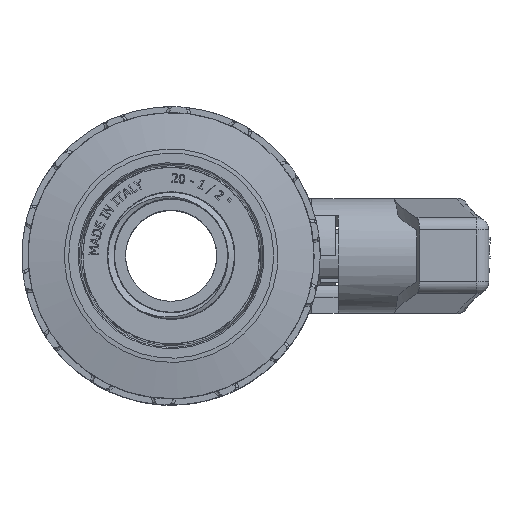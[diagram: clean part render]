
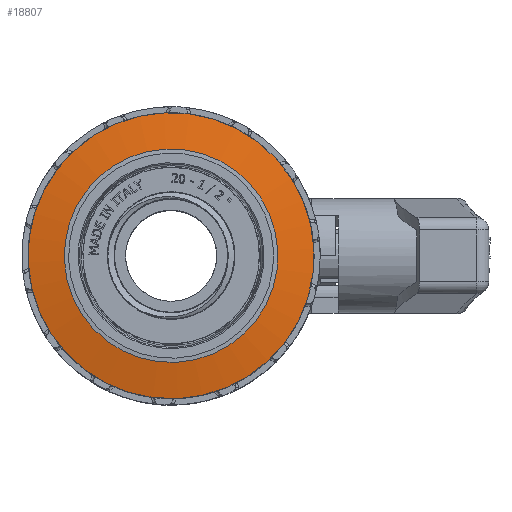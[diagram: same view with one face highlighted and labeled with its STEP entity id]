
A CAD part, top view. The second image highlights one B-rep face of the part: STEP entity #18807.
In plain terms, the highlighted conical face has half-angle 80 degrees and reference radius 20.35 mm.
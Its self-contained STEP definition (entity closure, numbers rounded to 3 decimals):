
#132=CONICAL_SURFACE('',#20255,20.35,1.396);
#676=FACE_BOUND('',#3767,.T.);
#1470=CIRCLE('',#20254,17.545);
#1471=CIRCLE('',#20256,23.5);
#2583=FACE_OUTER_BOUND('',#3766,.T.);
#3766=EDGE_LOOP('',(#14373));
#3767=EDGE_LOOP('',(#14374));
#8230=VERTEX_POINT('',#37400);
#8231=VERTEX_POINT('',#37403);
#10458=EDGE_CURVE('',#8230,#8230,#1470,.T.);
#10459=EDGE_CURVE('',#8231,#8231,#1471,.T.);
#14373=ORIENTED_EDGE('',*,*,#10459,.F.);
#14374=ORIENTED_EDGE('',*,*,#10458,.F.);
#18807=ADVANCED_FACE('',(#2583,#676),#132,.T.);
#20254=AXIS2_PLACEMENT_3D('',#37401,#23248,#23249);
#20255=AXIS2_PLACEMENT_3D('',#37402,#23250,#23251);
#20256=AXIS2_PLACEMENT_3D('',#37404,#23252,#23253);
#23248=DIRECTION('center_axis',(-1.,0.,0.));
#23249=DIRECTION('ref_axis',(0.,-1.,0.));
#23250=DIRECTION('center_axis',(1.,0.,0.));
#23251=DIRECTION('ref_axis',(0.,1.,0.));
#23252=DIRECTION('center_axis',(1.,0.,0.));
#23253=DIRECTION('ref_axis',(0.,0.,-1.));
#37400=CARTESIAN_POINT('',(0.061,17.545,0.));
#37401=CARTESIAN_POINT('Origin',(0.061,0.,0.));
#37402=CARTESIAN_POINT('Origin',(0.555,0.,0.));
#37403=CARTESIAN_POINT('',(1.111,23.5,0.));
#37404=CARTESIAN_POINT('Origin',(1.111,0.,0.));
